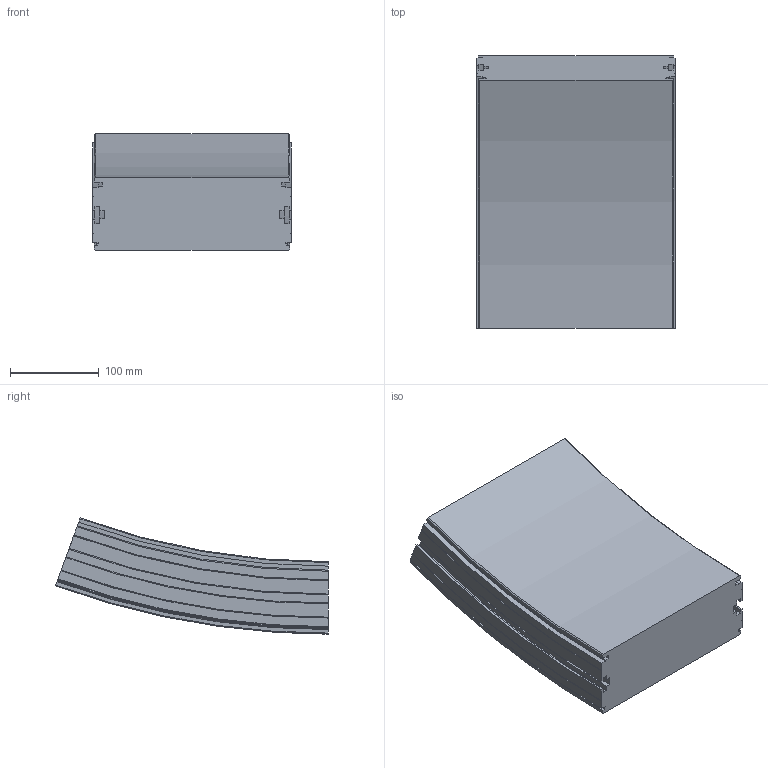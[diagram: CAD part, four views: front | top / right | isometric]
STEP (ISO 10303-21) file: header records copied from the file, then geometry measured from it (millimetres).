
FILE_DESCRIPTION(/* description */ ('VERTIKALKURVA S220 R860'),/* implementation_level */ '2;1');
FILE_NAME(/* name */ '\\carryline.intra\privat\users\mathias\Desktop\Tillfälliga filer\220-5695+220-2000-NER-01.stp',/* time_stamp */ '2018-11-29T14:43:57+01:00',/* author */ ('MD'),/* organization */ ('CARRYLINE'),/* preprocessor_version */ 'ST-DEVELOPER v17',/* originating_system */ 'Autodesk Inventor 2018',/* authorisation */ '');
FILE_SCHEMA (('AUTOMOTIVE_DESIGN { 1 0 10303 214 3 1 1 }'));
Length unit declared in the file: millimetre
Products named in the file (1): 220-5695+220-2000-NER-01
Bounding box: 224 x 307.65 x 130.83 mm (x, y, z)
Volume: 5305159.1 mm3; surface area: 261028.3 mm2
Topology: 1 solids, 1 shells, 113 faces, 318 edges, 212 vertices
Faces by surface type: plane 48, cylinder 31, bspline 14, cone 14, torus 6
Entity records: 8328 total; most frequent: CARTESIAN_POINT 5360, ORIENTED_EDGE 636, DIRECTION 576, EDGE_CURVE 318, VERTEX_POINT 212, AXIS2_PLACEMENT_3D 199, LINE 178, VECTOR 178
